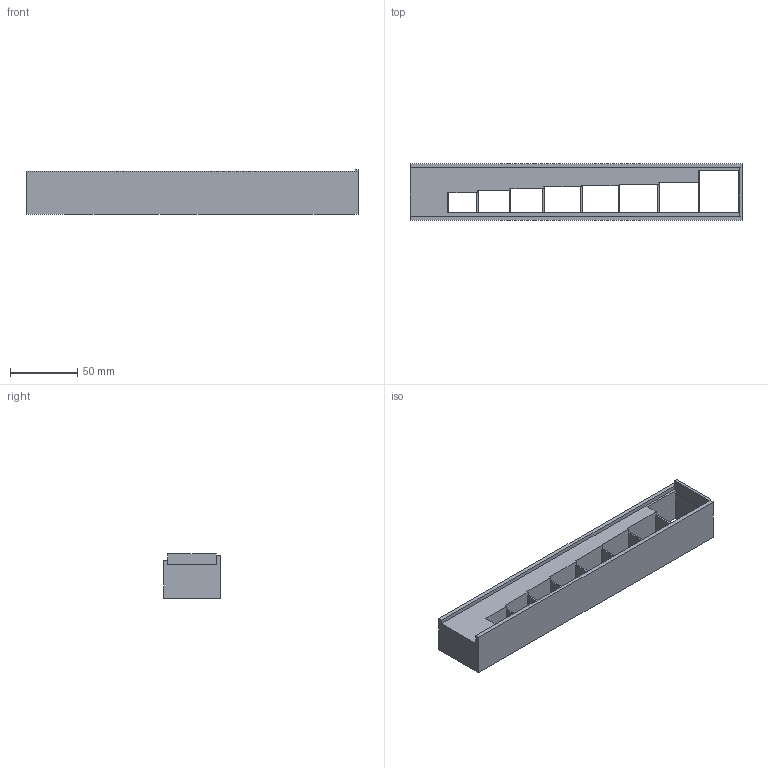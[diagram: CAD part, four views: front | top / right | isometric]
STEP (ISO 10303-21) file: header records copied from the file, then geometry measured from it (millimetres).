
FILE_DESCRIPTION(('Open CASCADE Model'),'2;1');
FILE_NAME('Open CASCADE Shape Model','2026-10-20T15:47:44',('Author'),( 'Open CASCADE'),'Open CASCADE STEP processor 8.0','build123d', 'Unknown');
FILE_SCHEMA(('AUTOMOTIVE_DESIGN { 1 0 10303 214 1 1 1 1 }'));
Length unit declared in the file: millimetre
Products named in the file (2): =>[0:1:1:2]; COMPOUND
Assembly tree (1 placements, depth 2):
  =>[0:1:1:2]
    COMPOUND
Bounding box: 246 x 42 x 33 mm (x, y, z)
Volume: 157492.5 mm3; surface area: 49762.9 mm2
Topology: 1 solids, 1 shells, 56 faces, 184 edges, 122 vertices
Faces by surface type: plane 56
Entity records: 4352 total; most frequent: CARTESIAN_POINT 804, DIRECTION 596, LINE 480, VECTOR 480, ORIENTED_EDGE 368, PCURVE 368, DEFINITIONAL_REPRESENTATION 368, EDGE_CURVE 184
